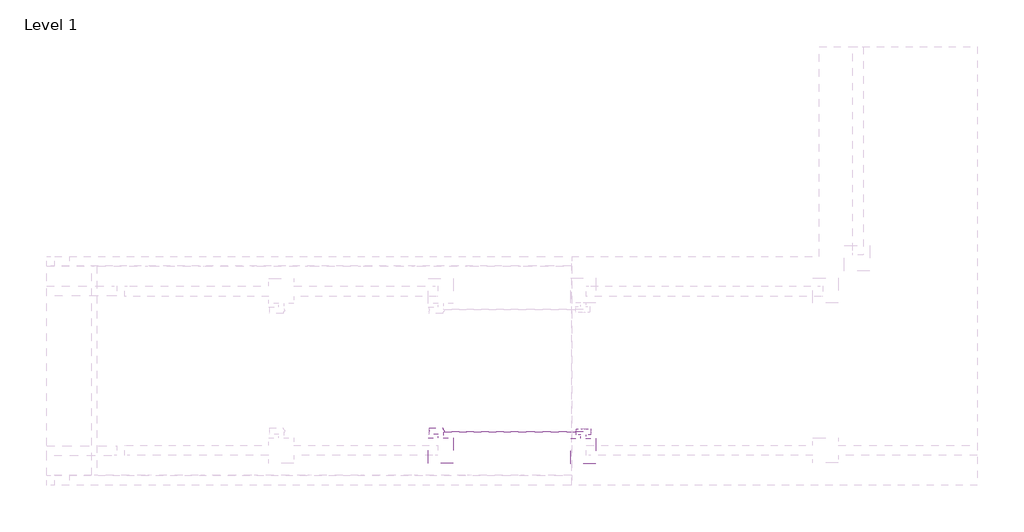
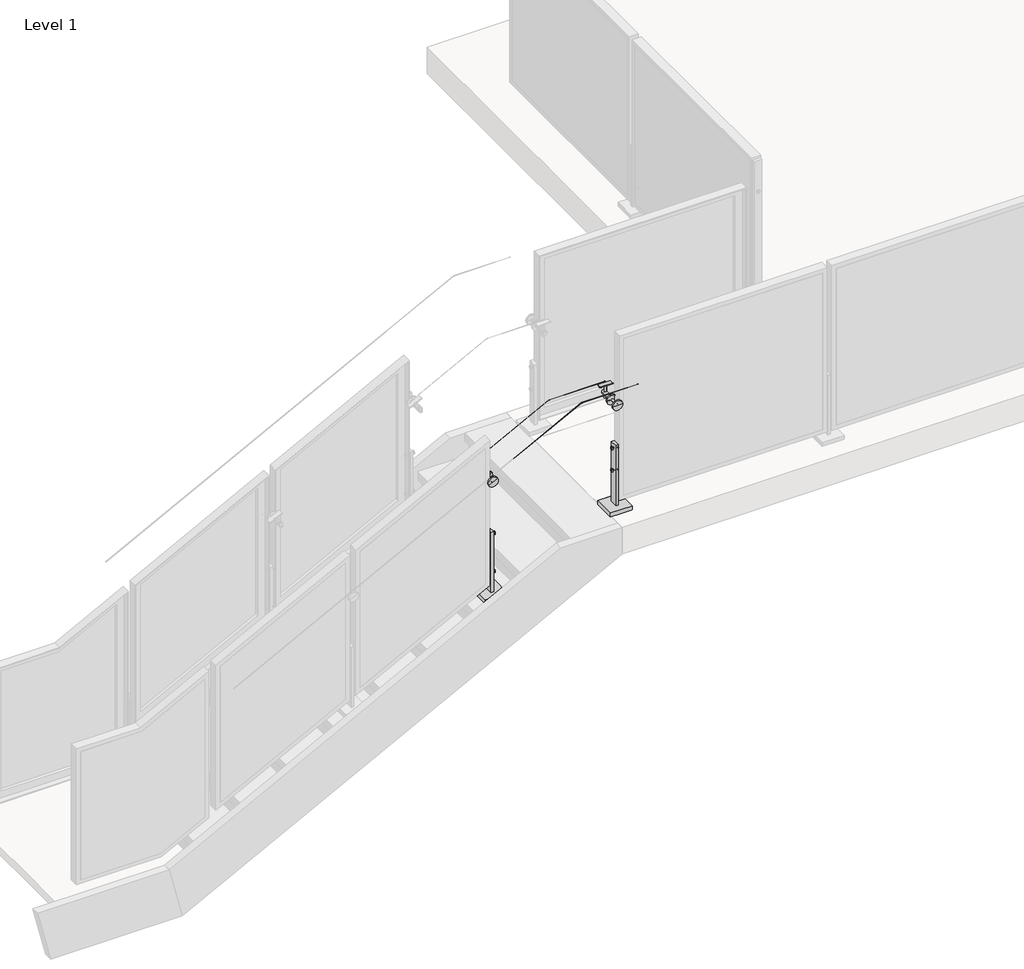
# One storey, part 15 of 37: 1 proxy, 1 railing.
"""IFC4 building model written with IfcOpenShell, lengths in millimetres."""

from ifc_helpers import new_model, si_unit, point, frame, frame_2d, origin, place, context, project, spatial, polyline, circle_curve, ellipse_curve, trimmed, segment, composite_curve, outline, extrude, transform, mapped, element, save
from ifc_brep_helpers import plane_surface, cylinder_surface, advanced_brep
from components import baluster_end_post_viva_frame_top_mount_stairs_2918d103

model = new_model("IFC4")

# Units and contexts
model_context = context("Model", 3, world=origin())
ifc_project = project(units=[si_unit("LENGTHUNIT", "METRE", prefix="MILLI")], contexts=[model_context])

# Site, building, storey
site = spatial("IfcSite", under=ifc_project)
building = spatial("IfcBuilding", under=site)
storey = spatial("IfcBuildingStorey", under=building, Name="Level 1", Elevation=0.0)

# Proxy
placement = place(None, origin())
baluster_end_post_viva_frame_top_mount_stairs_shape = baluster_end_post_viva_frame_top_mount_stairs_2918d103(model_context)
element("IfcBuildingElementProxy", 1, Name="Baluster-End-Post-VIVA-FRAME-Top Mount Stairs : ANCHORED TO CONCRETE_TOP MOUNT FRAME_STAIR", ObjectType="Baluster-End-Post-VIVA-FRAME-Top Mount Stairs : ANCHORED TO CONCRETE_TOP MOUNT FRAME_STAIR", at=placement, inside=storey, context=model_context, shape_type="MappedRepresentation", body=[
    mapped(baluster_end_post_viva_frame_top_mount_stairs_shape, transform((-7413.6813244, -18322.9554387, 3784.092), x_axis=(1.0, 0.0, 0.0), y_axis=(0.0, 1.0, 0.0), z_axis=(0.0, 0.0, 1.0))),
])

# Railing
element("IfcRailing", 2, ObjectType="Metal-Panel-VIVA-FRAME-Slab-Top-Anchor-Stairs-Landing-Upper", at=placement, inside=storey, context=model_context, shape_type="SolidModel", body=[
    advanced_brep(
    [(-8159.4813244, -18323.2094387, 3573.1968892), (-8159.4813244, -18322.7014387, 3573.1968892), (-7753.0192861, -18323.2094387, 3784.346), (-7753.0192861, -18322.7014387, 3784.346), (-7413.6813244, -18323.2094387, 3784.346), (-7413.6813244, -18322.7014387, 3784.346)],
    [
        (0, 1, ellipse_curve(frame((-8159.4813244, -18322.9554387, 3573.1968892), z_axis=(-1.0, 0.0, 0.0), x_axis=(0.0, 0.0, -0.9999999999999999)), 0.2862277, 0.254)),
        (1, 0, ellipse_curve(frame((-8159.4813244, -18322.9554387, 3573.1968892), z_axis=(-1.0, 0.0, 0.0), x_axis=(0.0, 0.0, -0.9999999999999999)), 0.2862277, 0.254)),
        (0, 2),
        (2, 3, ellipse_curve(frame((-7753.0192861, -18322.9554387, 3784.346), z_axis=(-0.9714436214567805, 0.0, -0.23727050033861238), x_axis=(0.23727050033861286, 0.0, -0.9714436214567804)), 0.2614665, 0.254)),
        (3, 1),
        (3, 2, ellipse_curve(frame((-7753.0192861, -18322.9554387, 3784.346), z_axis=(-0.9714436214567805, 0.0, -0.23727050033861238), x_axis=(0.23727050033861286, 0.0, -0.9714436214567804)), 0.2614665, 0.254)),
        (4, 5, circle_curve(frame((-7413.6813244, -18322.9554387, 3784.346), z_axis=(1.0, 0.0, 0.0), x_axis=(0.0, 1.0, 0.0)), 0.254)),
        (5, 4, circle_curve(frame((-7413.6813244, -18322.9554387, 3784.346), z_axis=(1.0, 0.0, 0.0), x_axis=(0.0, 1.0, 0.0)), 0.254)),
        (2, 4),
        (5, 3),
    ],
    [
        plane_surface(frame((-8159.4813244, -18322.9554387, 3573.4831169), z_axis=(-1.0, 0.0, 0.0), x_axis=(0.0, 1.0, 0.0))),
        cylinder_surface(frame((-8159.364233, -18322.9554387, 3573.2577159), z_axis=(-0.8874054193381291, 0.0, -0.4609898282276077), x_axis=(0.0, 1.0, 0.0)), 0.254),
        plane_surface(frame((-7413.6813244, -18322.9554387, 3784.6), z_axis=(1.0, 0.0, 0.0), x_axis=(0.0, 1.0, 0.0))),
        cylinder_surface(frame((-7753.0813244, -18322.9554387, 3784.346), z_axis=(-1.0, 0.0, 0.0), x_axis=(0.0, 1.0, 0.0)), 0.254),
    ],
    [
        (0, [[1, 2]]),
        (1, [[-1, 3, 4, 5]]),
        (1, [[-2, -5, 6, -3]]),
        (2, [[7, 8]]),
        (3, [[-4, 9, -8, 10]]),
        (3, [[-6, -10, -7, -9]]),
    ],
),
    advanced_brep(
    [(-8159.4813244, -18664.9554387, 3763.4196766), (-8159.4813244, -18663.9554387, 3763.4196766), (-7752.9592018, -18664.9554387, 3974.6), (-7752.9592018, -18663.9554387, 3974.6), (-7413.6813244, -18664.9554387, 3974.6), (-7413.6813244, -18663.9554387, 3974.6)],
    [
        (0, 1, ellipse_curve(frame((-8159.4813244, -18664.4554387, 3763.4196766), z_axis=(-1.0, 0.0, 0.0), x_axis=(0.0, 0.0, -0.9999999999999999)), 0.5634403, 0.5)),
        (1, 0, ellipse_curve(frame((-8159.4813244, -18664.4554387, 3763.4196766), z_axis=(-1.0, 0.0, 0.0), x_axis=(0.0, 0.0, -0.9999999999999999)), 0.5634403, 0.5)),
        (0, 2),
        (2, 3, ellipse_curve(frame((-7752.9592018, -18664.4554387, 3974.6), z_axis=(-0.9714436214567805, 0.0, -0.23727050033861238), x_axis=(0.23727050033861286, 0.0, -0.9714436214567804)), 0.5146979, 0.5)),
        (3, 1),
        (3, 2, ellipse_curve(frame((-7752.9592018, -18664.4554387, 3974.6), z_axis=(-0.9714436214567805, 0.0, -0.23727050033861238), x_axis=(0.23727050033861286, 0.0, -0.9714436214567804)), 0.5146979, 0.5)),
        (4, 5, circle_curve(frame((-7413.6813244, -18664.4554387, 3974.6), z_axis=(1.0, 0.0, 0.0), x_axis=(0.0, 1.0, 0.0)), 0.5)),
        (5, 4, circle_curve(frame((-7413.6813244, -18664.4554387, 3974.6), z_axis=(1.0, 0.0, 0.0), x_axis=(0.0, 1.0, 0.0)), 0.5)),
        (2, 4),
        (5, 3),
    ],
    [
        plane_surface(frame((-8159.4813244, -18664.4554387, 3763.9831169), z_axis=(-1.0, 0.0, 0.0), x_axis=(0.0, 1.0, 0.0))),
        cylinder_surface(frame((-8159.2508295, -18664.4554387, 3763.5394142), z_axis=(-0.8874054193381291, 0.0, -0.4609898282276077), x_axis=(0.0, 1.0, 0.0)), 0.5),
        plane_surface(frame((-7413.6813244, -18664.4554387, 3975.1), z_axis=(1.0, 0.0, 0.0), x_axis=(0.0, 1.0, 0.0))),
        cylinder_surface(frame((-7753.0813244, -18664.4554387, 3974.6), z_axis=(-1.0, 0.0, 0.0), x_axis=(0.0, 1.0, 0.0)), 0.5),
    ],
    [
        (0, [[1, 2]]),
        (1, [[-1, 3, 4, 5]]),
        (1, [[-2, -5, 6, -3]]),
        (2, [[7, 8]]),
        (3, [[-4, 9, -8, 10]]),
        (3, [[-6, -10, -7, -9]]),
    ],
),
    extrude(outline(composite_curve([segment(polyline([(2.9997401, 0.0), (0.0, 0.0)]), True, "CONTINUOUS"), segment(trimmed(circle_curve(frame_2d((-19.0451471, 0.0)), 19.0451471), [point((0.0, 0.0))], [point((-23.6280664, 18.4855208))], True, "CARTESIAN"), True, "CONTINUOUS"), segment(polyline([(-23.6280664, 18.4855208), (-24.3499072, 21.3971159)]), True, "CONTINUOUS"), segment(trimmed(circle_curve(frame_2d((-19.0451471, 0.0)), 22.0448871), [point((-24.3499072, 21.3971159))], [point((2.9997401, 0.0))], False, "CARTESIAN"), True, "CONTINUOUS")], self_intersect=False)), frame((-8221.9690349, -18334.5772387, 3522.3349137), z_axis=(0.8874054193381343, 0.0, 0.46098982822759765), x_axis=(0.2840545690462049, -0.7876022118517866, -0.5468050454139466)), (0.0, 0.0, 1.0), 79.1184357),
    advanced_brep(
    [(-8147.0841468, -18319.5772387, 3463.9951499), (-8147.0841468, -18326.7209887, 3463.9951499), (-8147.0841468, -18312.4334887, 3463.9951499), (-8182.9433931, -18326.7209887, 3533.024199), (-8182.9433931, -18319.5772387, 3533.024199), (-8182.9433931, -18312.4334887, 3533.024199)],
    [
        (0, 1),
        (1, 2, circle_curve(frame((-8147.0841468, -18319.5772387, 3463.9951499), z_axis=(0.4609898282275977, 0.0, -0.8874054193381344), x_axis=(0.0, 1.0000000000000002, 0.0)), 7.14375)),
        (2, 0),
        (3, 4),
        (4, 5),
        (5, 3, circle_curve(frame((-8182.9433931, -18319.5772387, 3533.024199), z_axis=(-0.4609898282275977, 0.0, 0.8874054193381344), x_axis=(0.0, 1.0000000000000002, 0.0)), 7.14375)),
        (2, 1, circle_curve(frame((-8147.0841468, -18319.5772387, 3463.9951499), z_axis=(0.4609898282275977, 0.0, -0.8874054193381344), x_axis=(0.0, 1.0000000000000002, 0.0)), 7.14375)),
        (3, 5, circle_curve(frame((-8182.9433931, -18319.5772387, 3533.024199), z_axis=(-0.4609898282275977, 0.0, 0.8874054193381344), x_axis=(0.0, 1.0000000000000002, 0.0)), 7.14375)),
        (1, 3),
        (5, 2),
    ],
    [
        plane_surface(frame((-8147.0841468, -18319.5772387, 3463.9951499), z_axis=(0.4609898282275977, 0.0, -0.8874054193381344), x_axis=(0.0, 1.0, 0.0))),
        plane_surface(frame((-8182.9433931, -18319.5772387, 3533.024199), z_axis=(-0.4609898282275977, 0.0, 0.8874054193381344), x_axis=(0.0, 1.0, 0.0))),
        cylinder_surface(frame((-8030.1299469, -18319.5772387, 3238.8583152), z_axis=(0.4609898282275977, 0.0, -0.8874054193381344), x_axis=(0.0, 1.0000000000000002, 0.0)), 7.14375),
    ],
    [
        (0, [[1, 2, 3]]),
        (1, [[4, 5, 6]]),
        (0, [[-3, 7, -1]]),
        (1, [[-5, -4, 8]]),
        (2, [[9, -6, 10, -2]]),
        (2, [[-10, -8, -9, -7]]),
    ],
),
    advanced_brep(
    [(-8186.2476904, -18446.5772387, 3473.9551112), (-8165.1163488, -18446.5772387, 3484.9324315), (-8153.8463, -18446.5772387, 3490.7870023), (-8132.7149585, -18446.5772387, 3501.7643226), (-8186.2476904, -18454.5147387, 3473.9551112), (-8132.7149585, -18454.5147387, 3501.7643226), (-8186.2476904, -18387.8397387, 3473.9551112), (-8170.7513733, -18387.8397387, 3482.0051461), (-8148.2112756, -18387.8397387, 3493.7142877), (-8132.7149585, -18387.8397387, 3501.7643226), (-8186.2476904, -18395.7772387, 3473.9551112), (-8132.7149585, -18395.7772387, 3501.7643226), (-8159.4813244, -18454.5147387, 3487.8597169), (-8170.7513733, -18308.4647387, 3482.0051461), (-8159.4813244, -18308.4647387, 3487.8597169), (-8148.2112756, -18308.4647387, 3493.7142877), (-8165.1163488, -18395.7772387, 3484.9324315), (-8153.8463, -18395.7772387, 3490.7870023)],
    [
        (0, 1),
        (1, 2, circle_curve(frame((-8159.4813244, -18446.5772387, 3487.8597169), z_axis=(0.0, -1.0, 0.0), x_axis=(0.8874054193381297, 0.0, 0.4609898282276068)), 6.35)),
        (2, 3),
        (3, 0, circle_curve(frame((-8159.4813244, -18446.5772387, 3487.8597169), z_axis=(0.0, 1.0, 0.0), x_axis=(0.8874054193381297, 0.0, 0.4609898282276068)), 30.1625)),
        (4, 0),
        (3, 5),
        (5, 4, circle_curve(frame((-8159.4813244, -18454.5147387, 3487.8597169), z_axis=(0.0, 1.0, 0.0), x_axis=(0.8874054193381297, 0.0, 0.4609898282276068)), 30.1625)),
        (6, 7),
        (7, 8, circle_curve(frame((-8159.4813244, -18387.8397387, 3487.8597169), z_axis=(0.0, -1.0, 0.0), x_axis=(0.8874054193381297, 0.0, 0.4609898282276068)), 12.7)),
        (8, 9),
        (9, 6, circle_curve(frame((-8159.4813244, -18387.8397387, 3487.8597169), z_axis=(0.0, 1.0, 0.0), x_axis=(0.8874054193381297, 0.0, 0.4609898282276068)), 30.1625)),
        (10, 6),
        (9, 11),
        (11, 10, circle_curve(frame((-8159.4813244, -18395.7772387, 3487.8597169), z_axis=(0.0, 1.0, 0.0), x_axis=(0.8874054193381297, 0.0, 0.4609898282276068)), 30.1625)),
        (3, 0, circle_curve(frame((-8159.4813244, -18446.5772387, 3487.8597169), z_axis=(0.0, -1.0, 0.0), x_axis=(0.8874054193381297, 0.0, 0.4609898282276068)), 30.1625)),
        (4, 5, circle_curve(frame((-8159.4813244, -18454.5147387, 3487.8597169), z_axis=(0.0, 1.0, 0.0), x_axis=(0.8874054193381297, 0.0, 0.4609898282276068)), 30.1625)),
        (12, 4),
        (5, 12),
        (13, 14),
        (14, 15),
        (15, 13, circle_curve(frame((-8159.4813244, -18308.4647387, 3487.8597169), z_axis=(0.0, 1.0, 0.0), x_axis=(0.8874054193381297, 0.0, 0.4609898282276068)), 12.7)),
        (13, 15, circle_curve(frame((-8159.4813244, -18308.4647387, 3487.8597169), z_axis=(0.0, 1.0, 0.0), x_axis=(0.8874054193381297, 0.0, 0.4609898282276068)), 12.7)),
        (7, 13),
        (15, 8),
        (7, 8, circle_curve(frame((-8159.4813244, -18387.8397387, 3487.8597169), z_axis=(0.0, 1.0, 0.0), x_axis=(0.8874054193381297, 0.0, 0.4609898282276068)), 12.7)),
        (6, 9, circle_curve(frame((-8159.4813244, -18387.8397387, 3487.8597169), z_axis=(0.0, 1.0, 0.0), x_axis=(0.8874054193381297, 0.0, 0.4609898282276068)), 30.1625)),
        (10, 11, circle_curve(frame((-8159.4813244, -18395.7772387, 3487.8597169), z_axis=(0.0, 1.0, 0.0), x_axis=(0.8874054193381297, 0.0, 0.4609898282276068)), 30.1625)),
        (16, 10),
        (11, 17),
        (17, 16, circle_curve(frame((-8159.4813244, -18395.7772387, 3487.8597169), z_axis=(0.0, 1.0, 0.0), x_axis=(0.8874054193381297, 0.0, 0.4609898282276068)), 6.35)),
        (16, 17, circle_curve(frame((-8159.4813244, -18395.7772387, 3487.8597169), z_axis=(0.0, 1.0, 0.0), x_axis=(0.8874054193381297, 0.0, 0.4609898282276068)), 6.35)),
        (1, 16),
        (17, 2),
        (1, 2, circle_curve(frame((-8159.4813244, -18446.5772387, 3487.8597169), z_axis=(0.0, 1.0, 0.0), x_axis=(0.8874054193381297, 0.0, 0.4609898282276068)), 6.35)),
    ],
    [
        plane_surface(frame((-8159.4813244, -18446.5772387, 3487.8597169), z_axis=(0.0, 1.0000000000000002, 0.0), x_axis=(0.8874054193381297, 0.0, 0.4609898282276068))),
        cylinder_surface(frame((-8159.4813244, -19919.7772387, 3487.8597169), z_axis=(0.0, -1.0000000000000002, 0.0), x_axis=(0.8874054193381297, 0.0, 0.4609898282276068)), 30.1625),
        plane_surface(frame((-8159.4813244, -18387.8397387, 3487.8597169), z_axis=(0.0, 1.0000000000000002, 0.0), x_axis=(0.8874054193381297, 0.0, 0.4609898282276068))),
        plane_surface(frame((-8159.4813244, -18454.5147387, 3487.8597169), z_axis=(0.0, -1.0000000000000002, 0.0), x_axis=(0.8874054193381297, 0.0, 0.4609898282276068))),
        plane_surface(frame((-8159.4813244, -18308.4647387, 3487.8597169), z_axis=(0.0, 1.0000000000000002, 0.0), x_axis=(0.8874054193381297, 0.0, 0.4609898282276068))),
        cylinder_surface(frame((-8159.4813244, -19919.7772387, 3487.8597169), z_axis=(0.0, -1.0000000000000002, 0.0), x_axis=(0.8874054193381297, 0.0, 0.4609898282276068)), 12.7),
        plane_surface(frame((-8159.4813244, -18395.7772387, 3487.8597169), z_axis=(0.0, -1.0000000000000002, 0.0), x_axis=(0.8874054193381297, 0.0, 0.4609898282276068))),
        cylinder_surface(frame((-8159.4813244, -19919.7772387, 3487.8597169), z_axis=(0.0, -1.0000000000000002, 0.0), x_axis=(0.8874054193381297, 0.0, 0.4609898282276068)), 6.35),
    ],
    [
        (0, [[1, 2, 3, 4]]),
        (1, [[5, -4, 6, 7]]),
        (2, [[8, 9, 10, 11]]),
        (1, [[12, -11, 13, 14]]),
        (1, [[-6, 15, -5, 16]]),
        (3, [[17, -7, 18]]),
        (3, [[-18, -16, -17]]),
        (4, [[19, 20, 21]]),
        (4, [[-20, -19, 22]]),
        (5, [[23, -21, 24, -9]]),
        (5, [[-24, -22, -23, 25]]),
        (2, [[-10, -25, -8, 26]]),
        (1, [[-13, -26, -12, 27]]),
        (6, [[28, -14, 29, 30]]),
        (6, [[-29, -27, -28, 31]]),
        (7, [[32, -30, 33, -2]]),
        (7, [[-33, -31, -32, 34]]),
        (0, [[-3, -34, -1, -15]]),
    ],
),
    advanced_brep(
    [(-8185.6687244, -18421.1772387, 2887.8638857), (-8185.6687244, -18421.1772387, 2906.9646857), (-8185.6687244, -18421.1772387, 2897.4142857), (-8180.8935244, -18421.1772387, 2887.8638857), (-8180.8935244, -18421.1772387, 2906.9646857), (-8180.8935244, -18421.1772387, 2892.6390857), (-8180.8935244, -18421.1772387, 2902.1894857), (-8138.0691244, -18421.1772387, 2892.6390857), (-8138.0691244, -18421.1772387, 2902.1894857), (-8138.0691244, -18421.1772387, 2887.8638857), (-8138.0691244, -18421.1772387, 2906.9646857), (-8133.2939244, -18421.1772387, 2887.8638857), (-8133.2939244, -18421.1772387, 2906.9646857), (-8133.2939244, -18421.1772387, 2897.4142857)],
    [
        (0, 1, circle_curve(frame((-8185.6687244, -18421.1772387, 2897.4142857), z_axis=(-1.0, 0.0, 0.0), x_axis=(0.0, 0.0, 1.0)), 9.5504)),
        (1, 2),
        (2, 0),
        (1, 0, circle_curve(frame((-8185.6687244, -18421.1772387, 2897.4142857), z_axis=(-1.0, 0.0, 0.0), x_axis=(0.0, 0.0, 1.0)), 9.5504)),
        (3, 4, circle_curve(frame((-8180.8935244, -18421.1772387, 2897.4142857), z_axis=(-1.0, 0.0, 0.0), x_axis=(0.0, 0.0, 1.0)), 9.5504)),
        (4, 1),
        (0, 3),
        (4, 3, circle_curve(frame((-8180.8935244, -18421.1772387, 2897.4142857), z_axis=(-1.0, 0.0, 0.0), x_axis=(0.0, 0.0, 1.0)), 9.5504)),
        (5, 6, circle_curve(frame((-8180.8935244, -18421.1772387, 2897.4142857), z_axis=(-1.0, 0.0, 0.0), x_axis=(0.0, 0.0, 1.0)), 4.7752)),
        (6, 4),
        (3, 5),
        (6, 5, circle_curve(frame((-8180.8935244, -18421.1772387, 2897.4142857), z_axis=(-1.0, 0.0, 0.0), x_axis=(0.0, 0.0, 1.0)), 4.7752)),
        (7, 8, circle_curve(frame((-8138.0691244, -18421.1772387, 2897.4142857), z_axis=(-1.0, 0.0, 0.0), x_axis=(0.0, 0.0, 1.0)), 4.7752)),
        (8, 6),
        (5, 7),
        (8, 7, circle_curve(frame((-8138.0691244, -18421.1772387, 2897.4142857), z_axis=(-1.0, 0.0, 0.0), x_axis=(0.0, 0.0, 1.0)), 4.7752)),
        (9, 10, circle_curve(frame((-8138.0691244, -18421.1772387, 2897.4142857), z_axis=(-1.0, 0.0, 0.0), x_axis=(0.0, 0.0, 1.0)), 9.5504)),
        (10, 8),
        (7, 9),
        (10, 9, circle_curve(frame((-8138.0691244, -18421.1772387, 2897.4142857), z_axis=(-1.0, 0.0, 0.0), x_axis=(0.0, 0.0, 1.0)), 9.5504)),
        (11, 12, circle_curve(frame((-8133.2939244, -18421.1772387, 2897.4142857), z_axis=(-1.0, 0.0, 0.0), x_axis=(0.0, 0.0, 1.0)), 9.5504)),
        (12, 10),
        (9, 11),
        (12, 11, circle_curve(frame((-8133.2939244, -18421.1772387, 2897.4142857), z_axis=(-1.0, 0.0, 0.0), x_axis=(0.0, 0.0, 1.0)), 9.5504)),
        (13, 12),
        (11, 13),
    ],
    [
        plane_surface(frame((-8185.6687244, -18421.1772387, 2897.4142857), z_axis=(-1.0, 0.0, 0.0), x_axis=(0.0, 0.0, 1.0))),
        cylinder_surface(frame((-11577.2490816, -18421.1772387, 2897.4142857), z_axis=(1.0, 0.0, 0.0), x_axis=(0.0, 0.0, 1.0)), 9.5504),
        plane_surface(frame((-8180.8935244, -18421.1772387, 2897.4142857), z_axis=(1.0, 0.0, 0.0), x_axis=(0.0, 0.0, 1.0))),
        cylinder_surface(frame((-11577.2490816, -18421.1772387, 2897.4142857), z_axis=(1.0, 0.0, 0.0), x_axis=(0.0, 0.0, 1.0)), 4.7752),
        plane_surface(frame((-8138.0691244, -18421.1772387, 2897.4142857), z_axis=(-1.0, 0.0, 0.0), x_axis=(0.0, 0.0, 1.0))),
        plane_surface(frame((-8133.2939244, -18421.1772387, 2897.4142857), z_axis=(1.0, 0.0, 0.0), x_axis=(0.0, 0.0, 1.0))),
    ],
    [
        (0, [[1, 2, 3]]),
        (0, [[4, -3, -2]]),
        (1, [[5, 6, -1, 7]]),
        (1, [[8, -7, -4, -6]]),
        (2, [[9, 10, -5, 11]]),
        (2, [[12, -11, -8, -10]]),
        (3, [[13, 14, -9, 15]]),
        (3, [[16, -15, -12, -14]]),
        (4, [[17, 18, -13, 19]]),
        (4, [[20, -19, -16, -18]]),
        (1, [[21, 22, -17, 23]]),
        (1, [[24, -23, -20, -22]]),
        (5, [[25, -21, 26]]),
        (5, [[-26, -24, -25]]),
    ],
),
    advanced_brep(
    [(-8185.6687244, -18421.1772387, 3129.1638857), (-8185.6687244, -18421.1772387, 3148.2646857), (-8185.6687244, -18421.1772387, 3138.7142857), (-8180.8935244, -18421.1772387, 3129.1638857), (-8180.8935244, -18421.1772387, 3148.2646857), (-8180.8935244, -18421.1772387, 3133.9390857), (-8180.8935244, -18421.1772387, 3143.4894857), (-8138.0691244, -18421.1772387, 3133.9390857), (-8138.0691244, -18421.1772387, 3143.4894857), (-8138.0691244, -18421.1772387, 3129.1638857), (-8138.0691244, -18421.1772387, 3148.2646857), (-8133.2939244, -18421.1772387, 3129.1638857), (-8133.2939244, -18421.1772387, 3148.2646857), (-8133.2939244, -18421.1772387, 3138.7142857)],
    [
        (0, 1, circle_curve(frame((-8185.6687244, -18421.1772387, 3138.7142857), z_axis=(-1.0, 0.0, 0.0), x_axis=(0.0, 0.0, 1.0)), 9.5504)),
        (1, 2),
        (2, 0),
        (1, 0, circle_curve(frame((-8185.6687244, -18421.1772387, 3138.7142857), z_axis=(-1.0, 0.0, 0.0), x_axis=(0.0, 0.0, 1.0)), 9.5504)),
        (3, 4, circle_curve(frame((-8180.8935244, -18421.1772387, 3138.7142857), z_axis=(-1.0, 0.0, 0.0), x_axis=(0.0, 0.0, 1.0)), 9.5504)),
        (4, 1),
        (0, 3),
        (4, 3, circle_curve(frame((-8180.8935244, -18421.1772387, 3138.7142857), z_axis=(-1.0, 0.0, 0.0), x_axis=(0.0, 0.0, 1.0)), 9.5504)),
        (5, 6, circle_curve(frame((-8180.8935244, -18421.1772387, 3138.7142857), z_axis=(-1.0, 0.0, 0.0), x_axis=(0.0, 0.0, 1.0)), 4.7752)),
        (6, 4),
        (3, 5),
        (6, 5, circle_curve(frame((-8180.8935244, -18421.1772387, 3138.7142857), z_axis=(-1.0, 0.0, 0.0), x_axis=(0.0, 0.0, 1.0)), 4.7752)),
        (7, 8, circle_curve(frame((-8138.0691244, -18421.1772387, 3138.7142857), z_axis=(-1.0, 0.0, 0.0), x_axis=(0.0, 0.0, 1.0)), 4.7752)),
        (8, 6),
        (5, 7),
        (8, 7, circle_curve(frame((-8138.0691244, -18421.1772387, 3138.7142857), z_axis=(-1.0, 0.0, 0.0), x_axis=(0.0, 0.0, 1.0)), 4.7752)),
        (9, 10, circle_curve(frame((-8138.0691244, -18421.1772387, 3138.7142857), z_axis=(-1.0, 0.0, 0.0), x_axis=(0.0, 0.0, 1.0)), 9.5504)),
        (10, 8),
        (7, 9),
        (10, 9, circle_curve(frame((-8138.0691244, -18421.1772387, 3138.7142857), z_axis=(-1.0, 0.0, 0.0), x_axis=(0.0, 0.0, 1.0)), 9.5504)),
        (11, 12, circle_curve(frame((-8133.2939244, -18421.1772387, 3138.7142857), z_axis=(-1.0, 0.0, 0.0), x_axis=(0.0, 0.0, 1.0)), 9.5504)),
        (12, 10),
        (9, 11),
        (12, 11, circle_curve(frame((-8133.2939244, -18421.1772387, 3138.7142857), z_axis=(-1.0, 0.0, 0.0), x_axis=(0.0, 0.0, 1.0)), 9.5504)),
        (13, 12),
        (11, 13),
    ],
    [
        plane_surface(frame((-8185.6687244, -18421.1772387, 3138.7142857), z_axis=(-1.0, 0.0, 0.0), x_axis=(0.0, 0.0, 1.0))),
        cylinder_surface(frame((-11577.2490816, -18421.1772387, 3138.7142857), z_axis=(1.0, 0.0, 0.0), x_axis=(0.0, 0.0, 1.0)), 9.5504),
        plane_surface(frame((-8180.8935244, -18421.1772387, 3138.7142857), z_axis=(1.0, 0.0, 0.0), x_axis=(0.0, 0.0, 1.0))),
        cylinder_surface(frame((-11577.2490816, -18421.1772387, 3138.7142857), z_axis=(1.0, 0.0, 0.0), x_axis=(0.0, 0.0, 1.0)), 4.7752),
        plane_surface(frame((-8138.0691244, -18421.1772387, 3138.7142857), z_axis=(-1.0, 0.0, 0.0), x_axis=(0.0, 0.0, 1.0))),
        plane_surface(frame((-8133.2939244, -18421.1772387, 3138.7142857), z_axis=(1.0, 0.0, 0.0), x_axis=(0.0, 0.0, 1.0))),
    ],
    [
        (0, [[1, 2, 3]]),
        (0, [[4, -3, -2]]),
        (1, [[5, 6, -1, 7]]),
        (1, [[8, -7, -4, -6]]),
        (2, [[9, 10, -5, 11]]),
        (2, [[12, -11, -8, -10]]),
        (3, [[13, 14, -9, 15]]),
        (3, [[16, -15, -12, -14]]),
        (4, [[17, 18, -13, 19]]),
        (4, [[20, -19, -16, -18]]),
        (1, [[21, 22, -17, 23]]),
        (1, [[24, -23, -20, -22]]),
        (5, [[25, -21, 26]]),
        (5, [[-26, -24, -25]]),
    ],
),
    extrude(outline(polyline([(-8225.3689244, -18355.2896387), (-8093.5937244, -18355.2896387), (-8093.5937244, -18487.0648387), (-8225.3689244, -18487.0648387), (-8225.3689244, -18355.2896387)])), frame((0.0, 0.0, 2757.7142857), z_axis=(0.0, 0.0, 1.0), x_axis=(1.0, 0.0, 0.0)), (0.0, 0.0, 1.0), 25.4),
    extrude(outline(polyline([(-8167.4209161, -18398.9522387), (-8151.5417328, -18398.9522387), (-8151.5417328, -18443.4022387), (-8167.4209161, -18443.4022387), (-8167.4209161, -18398.9522387)])), frame((0.0, 0.0, 2757.7142857), z_axis=(0.0, 0.0, 1.0), x_axis=(1.0, 0.0, 0.0)), (0.0, 0.0, 1.0), 406.4),
])

save(model, "model.ifc")
